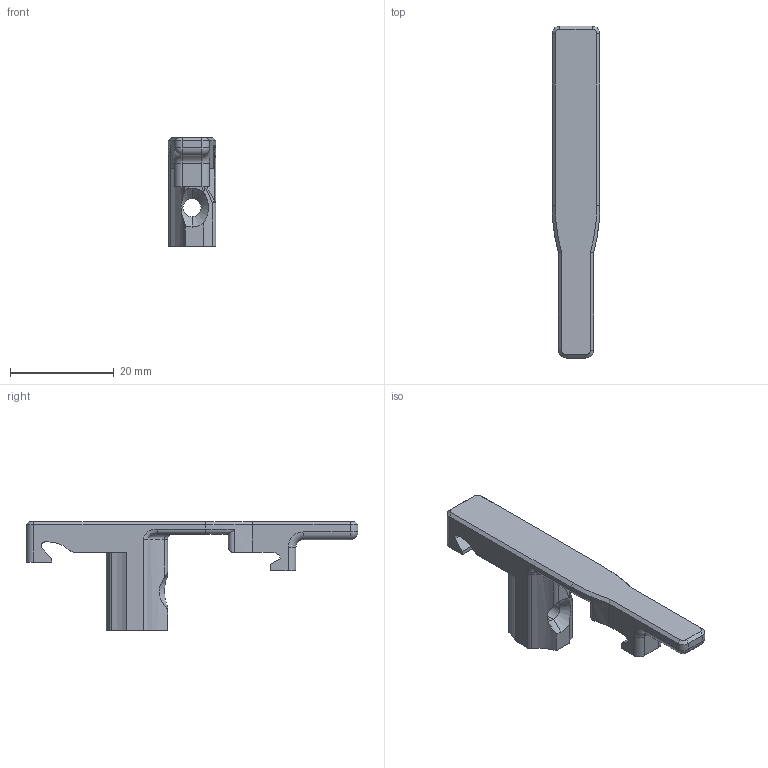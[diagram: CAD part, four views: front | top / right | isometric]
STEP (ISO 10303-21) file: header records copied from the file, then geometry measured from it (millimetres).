
FILE_DESCRIPTION (( 'STEP AP203' ), '1' );
FILE_NAME ('feeder_snapOn.STEP', '2014-11-19T22:47:12', ( 'Robban' ), ( '' ), 'SwSTEP 2.0', 'SolidWorks 2013', '' );
FILE_SCHEMA (( 'CONFIG_CONTROL_DESIGN' ));
Length unit declared in the file: millimetre
Products named in the file (1): feeder_snapOn
Bounding box: 9.2 x 64.15 x 21.05 mm (x, y, z)
Volume: 3814.4 mm3; surface area: 2540.1 mm2
Topology: 1 solids, 1 shells, 91 faces, 233 edges, 141 vertices
Faces by surface type: cylinder 37, plane 32, cone 8, torus 6, bspline 5, sphere 3
Entity records: 2973 total; most frequent: CARTESIAN_POINT 714, DIRECTION 467, ORIENTED_EDGE 462, EDGE_CURVE 231, AXIS2_PLACEMENT_3D 172, VERTEX_POINT 141, LINE 123, VECTOR 123
